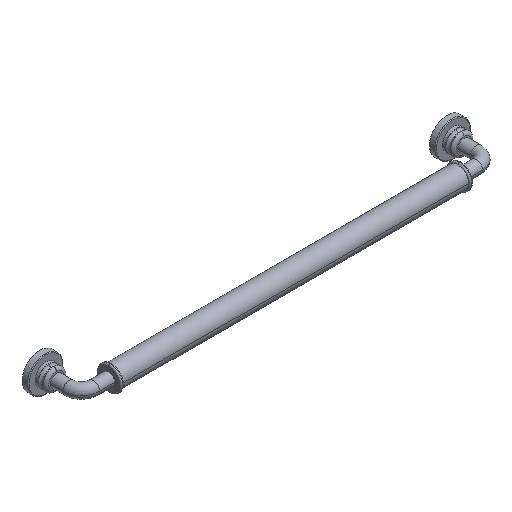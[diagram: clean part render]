
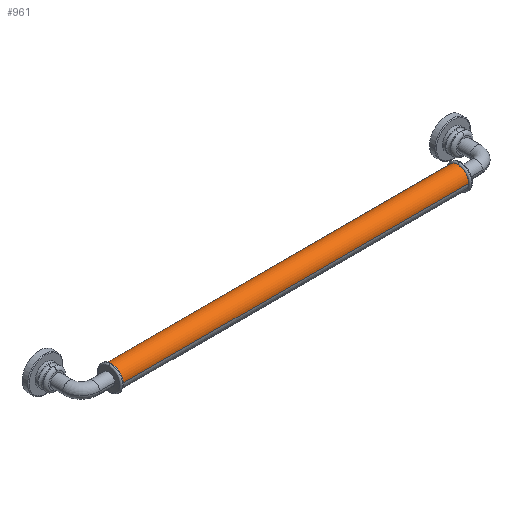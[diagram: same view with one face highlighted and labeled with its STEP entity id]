
A CAD part, isometric view. The second image highlights one B-rep face of the part: STEP entity #961.
In plain terms, the highlighted cylindrical face has radius 7 mm (diameter 14 mm), a partial arc.
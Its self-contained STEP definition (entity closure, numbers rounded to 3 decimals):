
#505 = EDGE_CURVE( '', #577, #967, #1456, .T. );
#577 = VERTEX_POINT( '', #1531 );
#725 = EDGE_CURVE( '', #577, #1015, #1693, .T. );
#929 = EDGE_CURVE( '', #1015, #1173, #1921, .T. );
#961 = ADVANCED_FACE( '', ( #1954 ), #1955, .T. );
#967 = VERTEX_POINT( '', #1962 );
#1015 = VERTEX_POINT( '', #2012 );
#1173 = VERTEX_POINT( '', #2187 );
#1233 = EDGE_CURVE( '', #1173, #967, #2252, .T. );
#1456 = CIRCLE( '', #2501, 7. );
#1531 = CARTESIAN_POINT( '', ( 20., -34., 0. ) );
#1693 = LINE( '', #2799, #2800 );
#1921 = CIRCLE( '', #3131, 7. );
#1954 = FACE_OUTER_BOUND( '', #3174, .T. );
#1955 = CYLINDRICAL_SURFACE( '', #3175, 7. );
#1962 = CARTESIAN_POINT( '', ( 20., -20., 0. ) );
#2012 = CARTESIAN_POINT( '', ( 245., -34., 0. ) );
#2187 = CARTESIAN_POINT( '', ( 245., -20., 0. ) );
#2252 = LINE( '', #3561, #3562 );
#2501 = AXIS2_PLACEMENT_3D( '', #3889, #3890, #3891 );
#2799 = CARTESIAN_POINT( '', ( 132.5, -34., 0. ) );
#2800 = VECTOR( '', #4179, 1. );
#3131 = AXIS2_PLACEMENT_3D( '', #4499, #4500, #4501 );
#3174 = EDGE_LOOP( '', ( #4542, #4543, #4544, #4545 ) );
#3175 = AXIS2_PLACEMENT_3D( '', #4546, #4547, #4548 );
#3561 = CARTESIAN_POINT( '', ( 132.5, -20., 0. ) );
#3562 = VECTOR( '', #4943, 1. );
#3889 = CARTESIAN_POINT( '', ( 20., -27., 0. ) );
#3890 = DIRECTION( '', ( -1., 0., 0. ) );
#3891 = DIRECTION( '', ( 0., 1., 0. ) );
#4179 = DIRECTION( '', ( 1., 0., 0. ) );
#4499 = CARTESIAN_POINT( '', ( 245., -27., 0. ) );
#4500 = DIRECTION( '', ( -1., 0., 0. ) );
#4501 = DIRECTION( '', ( 0., 1., 0. ) );
#4542 = ORIENTED_EDGE( '', *, *, #1233, .T. );
#4543 = ORIENTED_EDGE( '', *, *, #505, .F. );
#4544 = ORIENTED_EDGE( '', *, *, #725, .T. );
#4545 = ORIENTED_EDGE( '', *, *, #929, .T. );
#4546 = CARTESIAN_POINT( '', ( 132.5, -27., 0. ) );
#4547 = DIRECTION( '', ( 1., 0., 0. ) );
#4548 = DIRECTION( '', ( 0., 1., 0. ) );
#4943 = DIRECTION( '', ( -1., 0., 0. ) );
